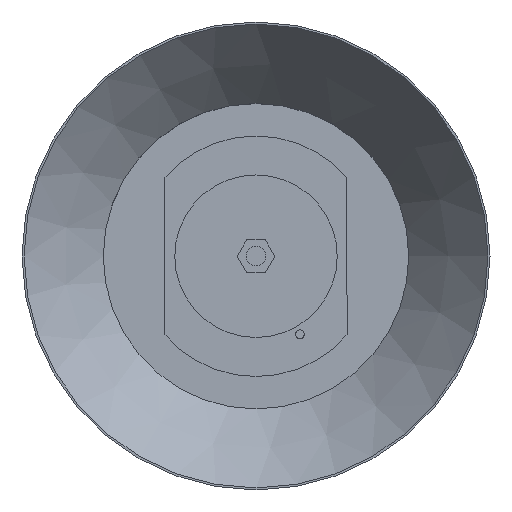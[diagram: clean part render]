
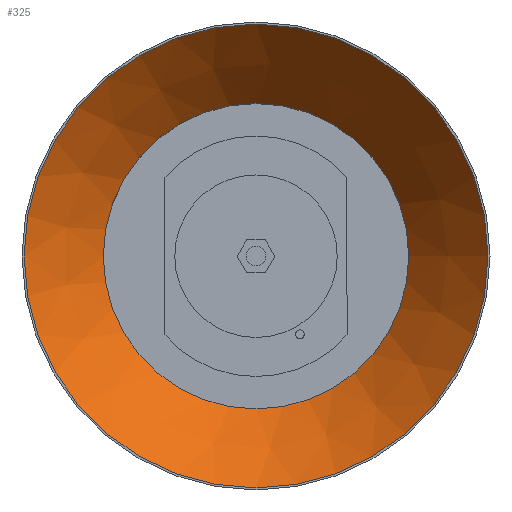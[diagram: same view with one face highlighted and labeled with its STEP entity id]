
A CAD part, top view. The second image highlights one B-rep face of the part: STEP entity #325.
In plain terms, the highlighted conical face has half-angle 39.237 degrees and reference radius 59.177 mm.
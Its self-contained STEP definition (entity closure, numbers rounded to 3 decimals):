
#243=CARTESIAN_POINT('',(47.0,0.0,17.178));
#244=VERTEX_POINT('',#243);
#245=CARTESIAN_POINT('',(0.0,0.0,17.178));
#246=DIRECTION('',(0.0,0.0,1.0));
#247=DIRECTION('',(1.0,0.0,0.0));
#248=AXIS2_PLACEMENT_3D('',#245,#246,#247);
#249=CIRCLE('',#248,47.0);
#250=EDGE_CURVE('',#244,#244,#249,.T.);
#302=CARTESIAN_POINT('',(71.354,0.0,47.));
#303=VERTEX_POINT('',#302);
#304=CARTESIAN_POINT('',(0.0,0.0,47.));
#305=DIRECTION('',(0.0,0.0,1.0));
#306=DIRECTION('',(1.0,0.0,0.0));
#307=AXIS2_PLACEMENT_3D('',#304,#305,#306);
#308=CIRCLE('',#307,71.354);
#309=EDGE_CURVE('',#303,#303,#308,.T.);
#314=CARTESIAN_POINT('',(0.0,0.0,32.089));
#315=DIRECTION('',(0.0,0.0,1.0));
#316=DIRECTION('',(1.0,0.0,0.0));
#317=AXIS2_PLACEMENT_3D('',#314,#315,#316);
#318=CONICAL_SURFACE('',#317,59.177,39.237);
#319=ORIENTED_EDGE('',*,*,#250,.F.);
#320=EDGE_LOOP('',(#319));
#321=FACE_OUTER_BOUND('',#320,.T.);
#322=ORIENTED_EDGE('',*,*,#309,.T.);
#323=EDGE_LOOP('',(#322));
#324=FACE_BOUND('',#323,.T.);
#325=ADVANCED_FACE('',(#321,#324),#318,.F.);
